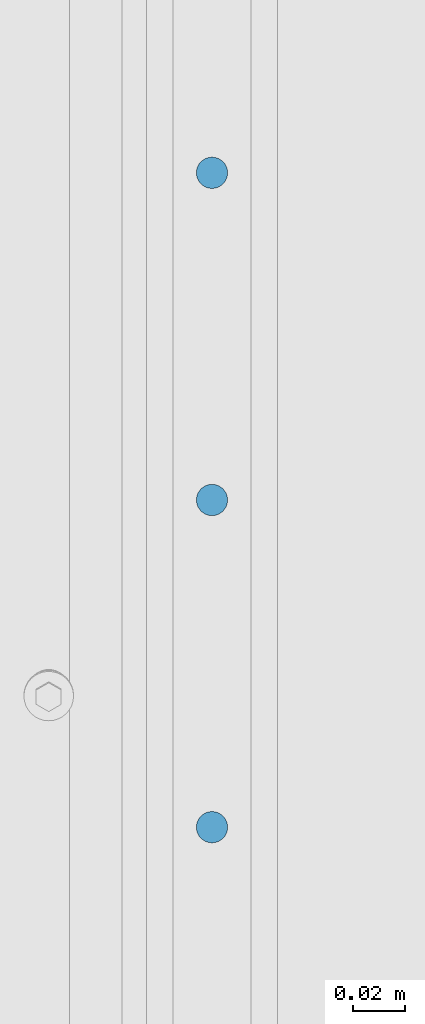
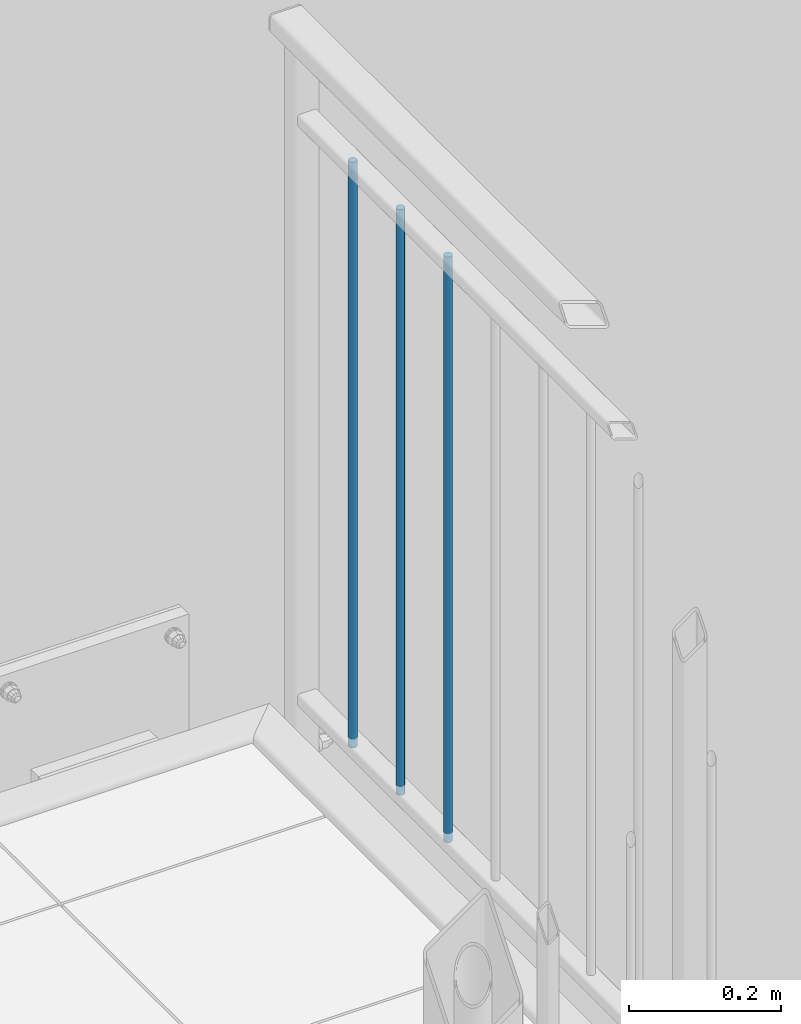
# One storey, part 34 of 162: 3 columns.
"""IFC2X3 building model written with IfcOpenShell, lengths in millimetres."""

import ifcopenshell
import ifcopenshell.guid

model = None  # the IFC model being written
_history = None  # IfcOwnerHistory: only IFC2X3 demands one
_inside = {}  # id of a spatial element -> (the spatial element, [elements in it])
_under = {}  # id of a project, library or spatial element -> (it, [spatial elements below it])
_declared = {}  # id of a project -> (the project, [libraries it declares])
_typed = {}  # id of a type object -> (the type object, [elements of that type])
_made_of = {}  # id of a material, layer set ... -> (it, [elements and type objects made of it])


def new_model(schema):
    """Start an empty IFC model of exactly this schema.

    Asked for "IFC4X3", IfcOpenShell would pick the latest addendum, in which some entities
    have other attributes; the version numbers below select the first issue.
    IFC2X3 requires an IfcOwnerHistory on every rooted entity: one is made here for all.
    """
    global model, _history
    if schema == "IFC4X3":
        model = ifcopenshell.file(schema_version=(4, 3, 0, 0))
    else:
        model = ifcopenshell.file(schema=schema)
    _inside.clear()
    _under.clear()
    _declared.clear()
    _typed.clear()
    _made_of.clear()
    _history = None
    if model.schema == "IFC2X3":
        org = make("IfcOrganization", Name="unknown")
        user = make(
            "IfcPersonAndOrganization",
            ThePerson=make("IfcPerson", FamilyName="unknown"),
            TheOrganization=org,
        )
        app = make(
            "IfcApplication",
            ApplicationDeveloper=org,
            Version="unknown",
            ApplicationFullName="unknown",
            ApplicationIdentifier="unknown",
        )
        _history = make(
            "IfcOwnerHistory",
            OwningUser=user,
            OwningApplication=app,
            ChangeAction="ADDED",
            CreationDate=0,
        )
    return model


def make(cls, **values):
    """One entity of the class cls with the attributes given. An attribute that is None is left unset."""
    return model.create_entity(
        cls, **{name: value for name, value in values.items() if value is not None}
    )


def entity(cls, *values):
    """Any entity or typed value of the class cls, its attributes in the order of the schema. None: left unset."""
    e = model.create_entity(cls)
    for i, value in enumerate(values):
        if value is not None:
            e[i] = value
    return e


def rooted(cls, **values):
    """An entity with a GlobalId (a new one), such as an element, a storey or a relation."""
    return make(cls, GlobalId=ifcopenshell.guid.new(), OwnerHistory=_history, **values)


def si_unit(unit_type, name, prefix=None):
    """IfcSIUnit, for example si_unit("LENGTHUNIT", "METRE", prefix="MILLI")."""
    return make("IfcSIUnit", UnitType=unit_type, Prefix=prefix, Name=name)


def converted_unit(unit_type, name, factor, base, dimensions=None, offset=None):
    """IfcConversionBasedUnit, such as the inch: factor (a typed value) times the base unit."""
    return make(
        "IfcConversionBasedUnit"
        if offset is None
        else "IfcConversionBasedUnitWithOffset",
        ConversionOffset=offset,
        Dimensions=None
        if dimensions is None
        else entity("IfcDimensionalExponents", *dimensions),
        UnitType=unit_type,
        Name=name,
        ConversionFactor=make(
            "IfcMeasureWithUnit", ValueComponent=factor, UnitComponent=base
        ),
    )


def assignment(units):
    """IfcUnitAssignment: the units of a project."""
    return None if units is None else make("IfcUnitAssignment", Units=units)


def point(xyz):
    """IfcCartesianPoint."""
    return None if xyz is None else make("IfcCartesianPoint", Coordinates=xyz)


def direction(xyz):
    """IfcDirection."""
    return None if xyz is None else make("IfcDirection", DirectionRatios=xyz)


def frame(location, z_axis=None, x_axis=None):
    """IfcAxis2Placement3D, a coordinate frame: its origin and axes. An axis left out is left unset."""
    return make(
        "IfcAxis2Placement3D",
        Location=point(location),
        Axis=direction(z_axis),
        RefDirection=direction(x_axis),
    )


def frame_2d(location, x_axis=None):
    """IfcAxis2Placement2D, a coordinate frame in the plane: its origin and x axis."""
    return make(
        "IfcAxis2Placement2D", Location=point(location), RefDirection=direction(x_axis)
    )


def origin():
    """The frame at (0, 0, 0) with its axes left unset."""
    return frame((0.0, 0.0, 0.0))


def origin_with_axes():
    """The frame at (0, 0, 0) with the z axis (0, 0, 1) and the x axis (1, 0, 0) written out."""
    return frame((0.0, 0.0, 0.0), z_axis=(0.0, 0.0, 1.0), x_axis=(1.0, 0.0, 0.0))


def origin_2d():
    """The frame at (0, 0) in the plane with its x axis left unset."""
    return frame_2d((0.0, 0.0))


def place(relative_to, where):
    """IfcLocalPlacement: puts the frame where relative to a parent placement (None: the world)."""
    return make(
        "IfcLocalPlacement", PlacementRelTo=relative_to, RelativePlacement=where
    )


def context(
    kind, dimensions, precision=None, world=None, true_north=None, identifier=None
):
    """IfcGeometricRepresentationContext, for example the 3D "Model" context."""
    return make(
        "IfcGeometricRepresentationContext",
        ContextIdentifier=identifier,
        ContextType=kind,
        CoordinateSpaceDimension=dimensions,
        Precision=precision,
        WorldCoordinateSystem=world,
        TrueNorth=true_north,
    )


def project(units=None, contexts=None):
    """IfcProject with its units and contexts."""
    return rooted(
        "IfcProject",
        Name="project",
        RepresentationContexts=contexts,
        UnitsInContext=assignment(units),
    )


def spatial(cls, under=None, at=None, **own):
    """A site, building, storey or space (cls), placed at a placement, below another one or the project."""
    s = rooted(cls, ObjectPlacement=at, **own)
    if under is not None:
        _under.setdefault(under.id(), (under, []))[1].append(s)
    return s


def profile(cls, at=None, kind="AREA", **sizes):
    """A parametric profile (cls). Its sizes go by their IFC names, for example OverallWidth=200.0."""
    return make(cls, ProfileType=kind, Position=at, **sizes)


def circle(**sizes):
    """IfcCircleProfileDef."""
    return profile("IfcCircleProfileDef", **sizes)


def extrude(swept, where, along, depth):
    """IfcExtrudedAreaSolid: the profile swept, set in the frame where, extruded along a direction by depth."""
    return make(
        "IfcExtrudedAreaSolid",
        SweptArea=swept,
        Position=where,
        ExtrudedDirection=direction(along),
        Depth=depth,
    )


def shape(context_of_items, identifier, shape_type, items):
    """IfcShapeRepresentation: the items that make up one representation, for example the "Body"."""
    return make(
        "IfcShapeRepresentation",
        ContextOfItems=context_of_items,
        RepresentationIdentifier=identifier,
        RepresentationType=shape_type,
        Items=items,
    )


def material(Name=None, Category=None):
    """IfcMaterial."""
    return make("IfcMaterial", Name=Name, Category=Category)


def made_of(thing, what):
    """Note that an element or type object is made of a material, layer set ...; save() writes the relation."""
    if what is not None:
        _made_of.setdefault(what.id(), (what, []))[1].append(thing)
    return thing


def element(
    cls,
    number,
    at=None,
    inside=None,
    cuts=None,
    type_object=None,
    material=None,
    context=None,
    identifier="Body",
    shape_type=None,
    held_by="IfcProductDefinitionShape",
    body=None,
    shapes=None,
    **own,
):
    """One element of the class cls, such as IfcWall. Its Tag is "e" and its number.

    at: its placement. inside: the storey or other place that contains it. cuts: it is an
    opening in that element (IfcRelVoidsElement). A single representation is given by context,
    identifier, shape_type and body (its items); several are given by shapes. held_by: the class
    of the entity that holds the representations. save() writes the other relations.
    """
    e = rooted(cls, Tag="e%d" % number, ObjectPlacement=at, **own)
    if body is not None:
        shapes = [shape(context, identifier, shape_type, body)]
    if shapes is not None:
        e.Representation = make(held_by, Representations=shapes)
    if inside is not None:
        _inside.setdefault(inside.id(), (inside, []))[1].append(e)
    if cuts is not None:
        rooted(
            "IfcRelVoidsElement", RelatingBuildingElement=cuts, RelatedOpeningElement=e
        )
    if type_object is not None:
        _typed.setdefault(type_object.id(), (type_object, []))[1].append(e)
    return made_of(e, material)


def aggregate(whole, parts):
    """IfcRelAggregates: a whole, such as a stair, and the parts it consists of."""
    return rooted("IfcRelAggregates", RelatingObject=whole, RelatedObjects=parts)


def save(model, path):
    """Write the relations noted so far, then the file.

    IfcRelAggregates (storeys below a building ...), IfcRelContainedInSpatialStructure (elements
    in a storey), IfcRelDefinesByType, IfcRelAssociatesMaterial and IfcRelDeclares: one each for
    every whole, place, type object, material and project.
    """
    for whole, parts in _under.values():
        aggregate(whole, parts)
    for where, things in _inside.values():
        rooted(
            "IfcRelContainedInSpatialStructure",
            RelatedElements=things,
            RelatingStructure=where,
        )
    for kind, things in _typed.values():
        rooted("IfcRelDefinesByType", RelatedObjects=things, RelatingType=kind)
    for what, things in _made_of.values():
        rooted("IfcRelAssociatesMaterial", RelatedObjects=things, RelatingMaterial=what)
    for by, libraries in _declared.values():
        rooted("IfcRelDeclares", RelatingContext=by, RelatedDefinitions=libraries)
    model.write(path)


model = new_model("IFC2X3")

# Units and contexts
model_context = context("Model", 3, precision=1e-09, world=origin_with_axes())
ifc_project = project(units=[si_unit("LENGTHUNIT", "METRE", prefix="MILLI"), si_unit("AREAUNIT", "SQUARE_METRE"), si_unit("VOLUMEUNIT", "CUBIC_METRE"), converted_unit("PLANEANGLEUNIT", "DEGREE", entity("IfcPlaneAngleMeasure", 0.01745329), si_unit("PLANEANGLEUNIT", "RADIAN"), dimensions=[0, 0, 0, 0, 0, 0, 0])], contexts=[model_context])

# Site, building, storey
site_placement = place(None, origin_with_axes())
site = spatial("IfcSite", under=ifc_project, at=site_placement, Name="Hermannstra?e 1a, 60318 Frankfurt", CompositionType="ELEMENT")
building_placement = place(site_placement, origin_with_axes())
building = spatial("IfcBuilding", under=site, at=building_placement, Name="Struktur 1", CompositionType="ELEMENT")
storey_placement = place(building_placement, origin_with_axes())
storey = spatial("IfcBuildingStorey", under=building, at=storey_placement, Name="Default Storey", CompositionType="ELEMENT", Elevation=0.0)

# Columns
ifc_material = material(Name="S235JR")
for number, where, z_axis, x_axis in (
    (1, (5848.30936482, 2496.359373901, 15261.999), (0.0, 0.0, -1.0), (0.0, -1.0, 0.0)),
    (2, (5848.30936482, 2371.109373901, 15261.999), (0.0, 0.0, -1.0), (0.0, -1.0, 0.0)),
    (3, (5848.30936482, 2245.859373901, 15261.999), (0.0, 0.0, -1.0), (0.0, -1.0, 0.0)),
):
    element("IfcColumn", number, at=place(None, frame(where, z_axis=z_axis, x_axis=x_axis)), inside=storey, material=ifc_material, Name="-", ObjectType="-", context=model_context, shape_type="SweptSolid", body=[
        extrude(circle(Radius=6.0, at=origin_2d()), origin(), (0.0, 0.0, -1.0), 940.0),
    ])

save(model, "model.ifc")
